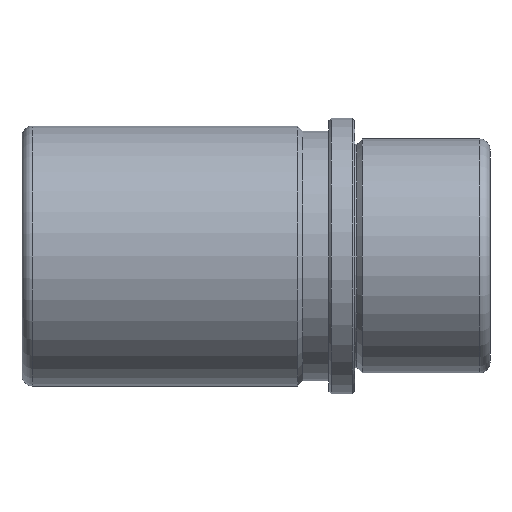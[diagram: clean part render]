
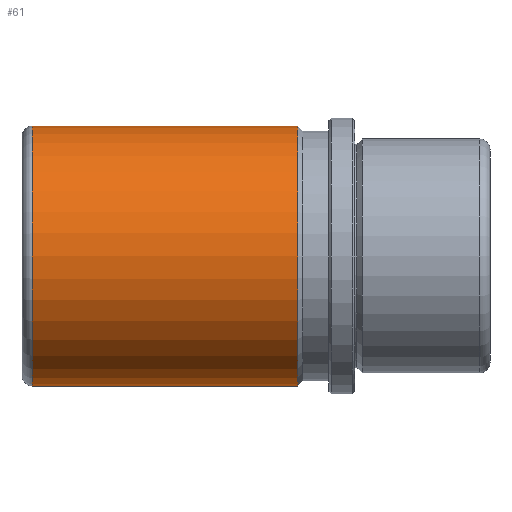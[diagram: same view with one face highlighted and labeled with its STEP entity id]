
A CAD part, front view. The second image highlights one B-rep face of the part: STEP entity #61.
In plain terms, the highlighted cylindrical face has radius 25 mm (diameter 50 mm), a full revolution.
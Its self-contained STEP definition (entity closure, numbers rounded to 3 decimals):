
#61 = ADVANCED_FACE( '', ( #136, #137, #138 ), #139, .T. );
#136 = FACE_OUTER_BOUND( '', #229, .T. );
#137 = FACE_BOUND( '', #230, .T. );
#138 = FACE_OUTER_BOUND( '', #231, .T. );
#139 = CYLINDRICAL_SURFACE( '', #232, 25. );
#229 = EDGE_LOOP( '', ( #332 ) );
#230 = EDGE_LOOP( '', ( #333 ) );
#231 = EDGE_LOOP( '', ( #334 ) );
#232 = AXIS2_PLACEMENT_3D( '', #335, #336, #337 );
#332 = ORIENTED_EDGE( '', *, *, #433, .T. );
#333 = ORIENTED_EDGE( '', *, *, #419, .T. );
#334 = ORIENTED_EDGE( '', *, *, #434, .F. );
#335 = CARTESIAN_POINT( '', ( 26., 0., 0. ) );
#336 = DIRECTION( '', ( -1., 0., 0. ) );
#337 = DIRECTION( '', ( 0., 0., -1. ) );
#419 = EDGE_CURVE( '', #467, #467, #468, .T. );
#433 = EDGE_CURVE( '', #489, #489, #490, .T. );
#434 = EDGE_CURVE( '', #491, #491, #492, .T. );
#467 = VERTEX_POINT( '', #597 );
#468 = B_SPLINE_CURVE_WITH_KNOTS( '', 3, ( #598, #599, #600, #601, #602, #603, #604, #605, #606, #607, #608, #609, #610, #611, #612, #613, #614, #615, #616, #617, #618, #619, #620, #621, #622, #623, #624, #625, #626, #627, #628, #629, #630, #631, #632, #633, #634, #635, #636, #637, #638, #639, #640, #641, #642, #643, #644, #645, #646, #647, #648, #649, #650, #651, #652, #653, #654, #655, #656, #657, #658, #659, #660, #661, #662, #663 ), .UNSPECIFIED., .T., .F., ( 2, 2, 2, 2, 2, 2, 2, 2, 2, 2, 2, 2, 2, 2, 2, 2, 2, 2, 2, 2, 2, 2, 2, 2, 2, 2, 2, 2, 2, 2, 2, 2, 2, 2, 2 ), ( -0.001, 0., 0.001, 0.002, 0.002, 0.003, 0.004, 0.005, 0.006, 0.007, 0.007, 0.008, 0.009, 0.01, 0.011, 0.011, 0.012, 0.013, 0.014, 0.015, 0.016, 0.016, 0.017, 0.018, 0.019, 0.02, 0.02, 0.021, 0.022, 0.023, 0.024, 0.025, 0.025, 0.026, 0.027 ), .UNSPECIFIED. );
#489 = VERTEX_POINT( '', #684 );
#490 = CIRCLE( '', #685, 25. );
#491 = VERTEX_POINT( '', #686 );
#492 = CIRCLE( '', #687, 25. );
#597 = CARTESIAN_POINT( '', ( -18., 24.647, -4.188 ) );
#598 = CARTESIAN_POINT( '', ( -18.277, 24.647, -4.188 ) );
#599 = CARTESIAN_POINT( '', ( -17.723, 24.647, -4.188 ) );
#600 = CARTESIAN_POINT( '', ( -17.45, 24.651, -4.161 ) );
#601 = CARTESIAN_POINT( '', ( -16.914, 24.669, -4.054 ) );
#602 = CARTESIAN_POINT( '', ( -16.648, 24.682, -3.973 ) );
#603 = CARTESIAN_POINT( '', ( -16.141, 24.715, -3.763 ) );
#604 = CARTESIAN_POINT( '', ( -15.901, 24.735, -3.634 ) );
#605 = CARTESIAN_POINT( '', ( -15.446, 24.778, -3.33 ) );
#606 = CARTESIAN_POINT( '', ( -15.231, 24.801, -3.154 ) );
#607 = CARTESIAN_POINT( '', ( -14.846, 24.847, -2.768 ) );
#608 = CARTESIAN_POINT( '', ( -14.672, 24.87, -2.558 ) );
#609 = CARTESIAN_POINT( '', ( -14.366, 24.913, -2.1 ) );
#610 = CARTESIAN_POINT( '', ( -14.236, 24.932, -1.857 ) );
#611 = CARTESIAN_POINT( '', ( -14.027, 24.965, -1.353 ) );
#612 = CARTESIAN_POINT( '', ( -13.947, 24.978, -1.089 ) );
#613 = CARTESIAN_POINT( '', ( -13.839, 24.995, -0.548 ) );
#614 = CARTESIAN_POINT( '', ( -13.812, 25., -0.276 ) );
#615 = CARTESIAN_POINT( '', ( -13.812, 25., 0.271 ) );
#616 = CARTESIAN_POINT( '', ( -13.839, 24.995, 0.549 ) );
#617 = CARTESIAN_POINT( '', ( -13.946, 24.978, 1.087 ) );
#618 = CARTESIAN_POINT( '', ( -14.025, 24.965, 1.348 ) );
#619 = CARTESIAN_POINT( '', ( -14.236, 24.932, 1.856 ) );
#620 = CARTESIAN_POINT( '', ( -14.366, 24.913, 2.1 ) );
#621 = CARTESIAN_POINT( '', ( -14.669, 24.87, 2.553 ) );
#622 = CARTESIAN_POINT( '', ( -14.843, 24.847, 2.765 ) );
#623 = CARTESIAN_POINT( '', ( -15.233, 24.801, 3.156 ) );
#624 = CARTESIAN_POINT( '', ( -15.444, 24.778, 3.328 ) );
#625 = CARTESIAN_POINT( '', ( -15.897, 24.735, 3.632 ) );
#626 = CARTESIAN_POINT( '', ( -16.142, 24.715, 3.763 ) );
#627 = CARTESIAN_POINT( '', ( -16.648, 24.682, 3.973 ) );
#628 = CARTESIAN_POINT( '', ( -16.909, 24.669, 4.053 ) );
#629 = CARTESIAN_POINT( '', ( -17.447, 24.651, 4.16 ) );
#630 = CARTESIAN_POINT( '', ( -17.725, 24.647, 4.188 ) );
#631 = CARTESIAN_POINT( '', ( -18.272, 24.647, 4.188 ) );
#632 = CARTESIAN_POINT( '', ( -18.544, 24.651, 4.162 ) );
#633 = CARTESIAN_POINT( '', ( -19.086, 24.669, 4.054 ) );
#634 = CARTESIAN_POINT( '', ( -19.35, 24.682, 3.974 ) );
#635 = CARTESIAN_POINT( '', ( -19.854, 24.715, 3.765 ) );
#636 = CARTESIAN_POINT( '', ( -20.098, 24.735, 3.635 ) );
#637 = CARTESIAN_POINT( '', ( -20.555, 24.778, 3.33 ) );
#638 = CARTESIAN_POINT( '', ( -20.765, 24.801, 3.157 ) );
#639 = CARTESIAN_POINT( '', ( -21.152, 24.847, 2.771 ) );
#640 = CARTESIAN_POINT( '', ( -21.329, 24.87, 2.556 ) );
#641 = CARTESIAN_POINT( '', ( -21.632, 24.912, 2.102 ) );
#642 = CARTESIAN_POINT( '', ( -21.761, 24.932, 1.862 ) );
#643 = CARTESIAN_POINT( '', ( -21.972, 24.965, 1.355 ) );
#644 = CARTESIAN_POINT( '', ( -22.053, 24.978, 1.089 ) );
#645 = CARTESIAN_POINT( '', ( -22.16, 24.995, 0.554 ) );
#646 = CARTESIAN_POINT( '', ( -22.188, 25., 0.28 ) );
#647 = CARTESIAN_POINT( '', ( -22.188, 25., -0.273 ) );
#648 = CARTESIAN_POINT( '', ( -22.161, 24.995, -0.546 ) );
#649 = CARTESIAN_POINT( '', ( -22.055, 24.978, -1.082 ) );
#650 = CARTESIAN_POINT( '', ( -21.974, 24.965, -1.349 ) );
#651 = CARTESIAN_POINT( '', ( -21.765, 24.932, -1.855 ) );
#652 = CARTESIAN_POINT( '', ( -21.636, 24.913, -2.096 ) );
#653 = CARTESIAN_POINT( '', ( -21.332, 24.871, -2.551 ) );
#654 = CARTESIAN_POINT( '', ( -21.156, 24.847, -2.766 ) );
#655 = CARTESIAN_POINT( '', ( -20.771, 24.801, -3.152 ) );
#656 = CARTESIAN_POINT( '', ( -20.561, 24.778, -3.325 ) );
#657 = CARTESIAN_POINT( '', ( -20.102, 24.735, -3.633 ) );
#658 = CARTESIAN_POINT( '', ( -19.86, 24.716, -3.762 ) );
#659 = CARTESIAN_POINT( '', ( -19.357, 24.683, -3.971 ) );
#660 = CARTESIAN_POINT( '', ( -19.092, 24.669, -4.053 ) );
#661 = CARTESIAN_POINT( '', ( -18.551, 24.651, -4.161 ) );
#662 = CARTESIAN_POINT( '', ( -18.277, 24.647, -4.188 ) );
#663 = CARTESIAN_POINT( '', ( -17.723, 24.647, -4.188 ) );
#684 = CARTESIAN_POINT( '', ( -62., 0., -25. ) );
#685 = AXIS2_PLACEMENT_3D( '', #747, #748, #749 );
#686 = CARTESIAN_POINT( '', ( -11., 0., -25. ) );
#687 = AXIS2_PLACEMENT_3D( '', #750, #751, #752 );
#747 = CARTESIAN_POINT( '', ( -62., 0., 0. ) );
#748 = DIRECTION( '', ( 1., 0., 0. ) );
#749 = DIRECTION( '', ( 0., 0., -1. ) );
#750 = CARTESIAN_POINT( '', ( -11., 0., 0. ) );
#751 = DIRECTION( '', ( 1., 0., 0. ) );
#752 = DIRECTION( '', ( 0., 0., -1. ) );
